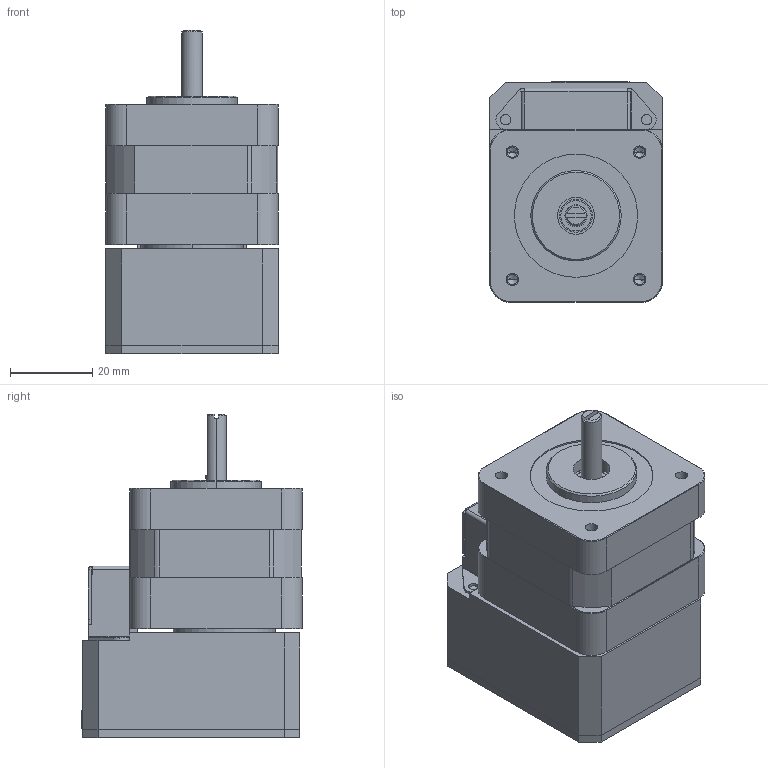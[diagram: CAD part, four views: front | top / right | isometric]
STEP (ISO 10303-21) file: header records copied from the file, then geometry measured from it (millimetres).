
FILE_DESCRIPTION (( 'STEP AP203' ), '1' );
FILE_NAME ('CM1-X-17S30.STEP', '2010-01-05T17:25:51', ( 'render' ), ( '' ), 'SwSTEP 2.0', 'SolidWorks 2009', '' );
FILE_SCHEMA (( 'CONFIG_CONTROL_DESIGN' ));
Length unit declared in the file: millimetre
Products named in the file (11): CM1-X-17S30; cm1 driver casing; CM1 driver cover; 17 wire cover; 17X Stepper_17S; Servo CM-17 Front Face; Servo CM-17 Bottom; 17X Body_17S; Driver Card; cm1 driver board; 53254-1210
Assembly tree (10 placements, depth 3):
  CM1-X-17S30
    17 wire cover
    cm1 driver casing
    CM1 driver cover
    Driver Card
      53254-1210
      cm1 driver board
    17X Stepper_17S
      17X Body_17S
      Servo CM-17 Bottom
      Servo CM-17 Front Face
Bounding box: 42.03 x 53.75 x 78.71 mm (x, y, z)
Volume: 85096.3 mm3; surface area: 40549.1 mm2
Topology: 8 solids, 8 shells, 787 faces, 2020 edges, 1280 vertices
Faces by surface type: plane 571, cylinder 185, cone 21, torus 8, bspline 2
Entity records: 24776 total; most frequent: CARTESIAN_POINT 4266, ORIENTED_EDGE 4024, DIRECTION 3965, EDGE_CURVE 2012, LINE 1599, VECTOR 1599, VERTEX_POINT 1280, AXIS2_PLACEMENT_3D 1183
